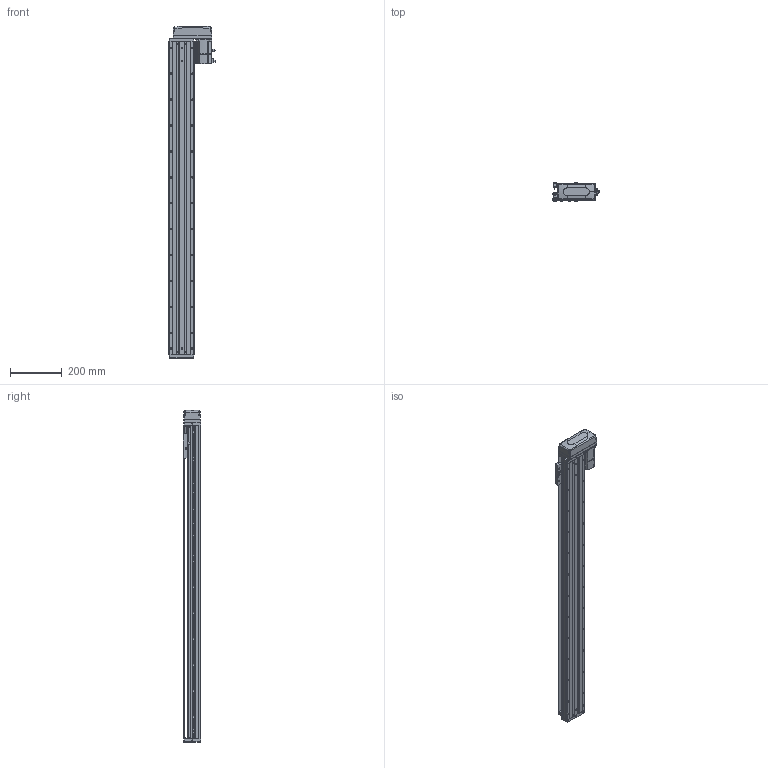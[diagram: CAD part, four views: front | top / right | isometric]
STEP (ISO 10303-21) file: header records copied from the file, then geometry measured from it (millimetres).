
FILE_DESCRIPTION (( 'STEP AP203' ), '1' );
FILE_NAME ('KTHA100-1050-BL-M20-C4L.step', '2022-04-26T01:47:30', ( '微软用户' ), ( '微软中国' ), 'SwSTEP 2.0', 'SolidWorks 2020', '' );
FILE_SCHEMA (( 'CONFIG_CONTROL_DESIGN' ));
Length unit declared in the file: millimetre
Products named in the file (17): EE_SX911P_R; GBT 70.3-M3℅6; CTHA60-017; _X2_4E0983F1_X0_200W_1; KTHA100-001_1210; CTHA60-021; CTHA86-015-1_CTHA86-015-2; KTHA100-002; GBT77-2000 M3×3; CTHA86-033; KTHA100-004; GBT 70.1-M3℅6; KTHA100-1050-BL-M20-C4L; KTHA100-005; GBT70.1 M5℅16; GB¨uT 70.2-M3¡Á5_M3¡Á6; CTHA60-016
Assembly tree (57 placements, depth 2):
  KTHA100-1050-BL-M20-C4L
    KTHA100-001_1210
    KTHA100-002
    KTHA100-004
    KTHA100-005
    GB¨uT 70.2-M3¡Á5_M3¡Á6  x6
    EE_SX911P_R  x3
    CTHA60-017  x3
    CTHA60-021  x2
    GBT77-2000 M3×3  x6
    GBT 70.1-M3℅6  x10
    GBT70.1 M5℅16  x14
    CTHA60-016  x2
    GBT 70.3-M3℅6  x4
    _X2_4E0983F1_X0_200W_1
    CTHA86-015-1_CTHA86-015-2
    CTHA86-033
Bounding box: 177.7 x 68 x 1281 mm (x, y, z)
Volume: 5295284.3 mm3; surface area: 855681.9 mm2
Topology: 60 solids, 60 shells, 2537 faces, 6113 edges, 3796 vertices
Faces by surface type: plane 1304, cylinder 707, cone 319, torus 116, bspline 75, sphere 16
Entity records: 45178 total; most frequent: CARTESIAN_POINT 9008, DIRECTION 7042, ORIENTED_EDGE 6838, EDGE_CURVE 3419, AXIS2_PLACEMENT_3D 2438, VECTOR 2166, LINE 2166, VERTEX_POINT 2156
